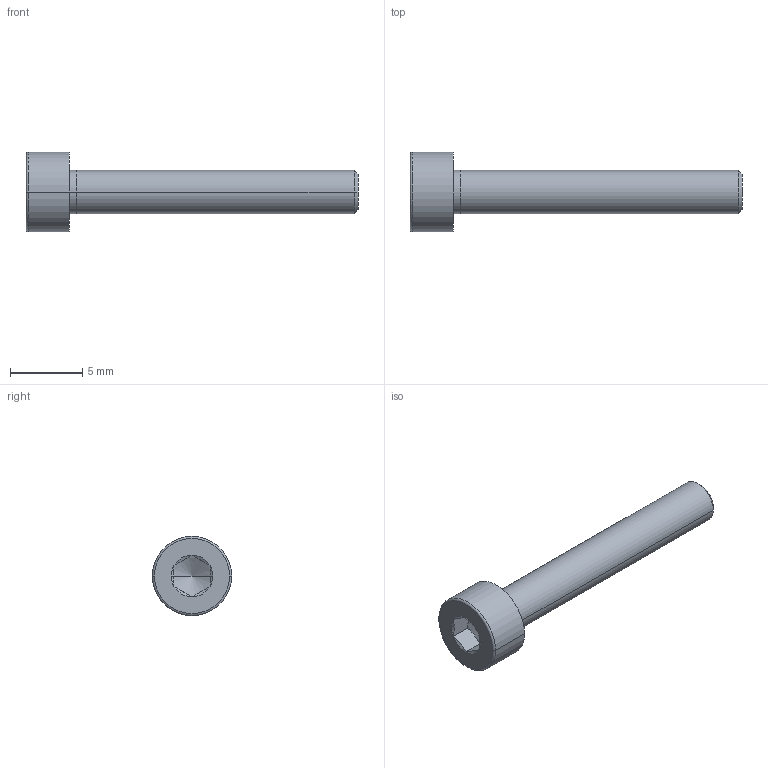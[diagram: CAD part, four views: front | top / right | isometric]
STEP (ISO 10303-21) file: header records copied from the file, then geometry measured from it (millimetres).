
FILE_DESCRIPTION(/* description */ ('VariCAD 2010-3.03 AP-214'),/* implementation_level */ '2;1');
FILE_NAME(/* name */ '0353-97-18',/* time_stamp */ '2011-05-09T23:45:35-06:00',/* author */ (''),/* organization */ (''),/* preprocessor_version */ 'ST-DEVELOPER v12',/* originating_system */ 'VariCAD 2010-3.03; kernel version (20100102)',/* authorisation */ '');
FILE_SCHEMA (('AUTOMOTIVE_DESIGN'));
Length unit declared in the file: millimetre
Products named in the file (1): Part
Bounding box: 23 x 5.5 x 5.5 mm (x, y, z)
Volume: 203.1 mm3; surface area: 603.8 mm2
Topology: 2 solids, 2 shells, 35 faces, 80 edges, 49 vertices
Faces by surface type: cone 12, plane 11, cylinder 10, torus 2
Entity records: 1310 total; most frequent: CARTESIAN_POINT 245, DIRECTION 170, ORIENTED_EDGE 156, EDGE_CURVE 78, AXIS2_PLACEMENT_3D 70, VERTEX_POINT 49, EDGE_LOOP 39, PRESENTATION_STYLE_ASSIGNMENT 37
